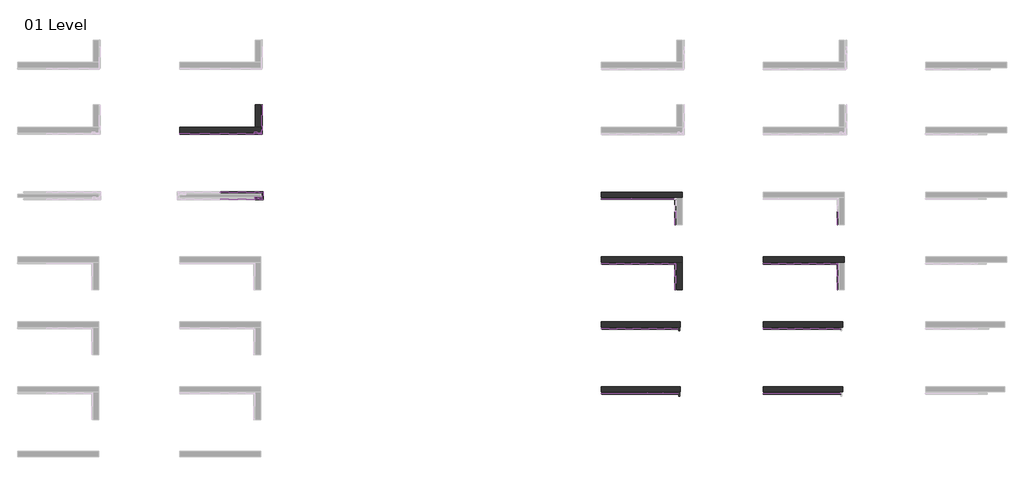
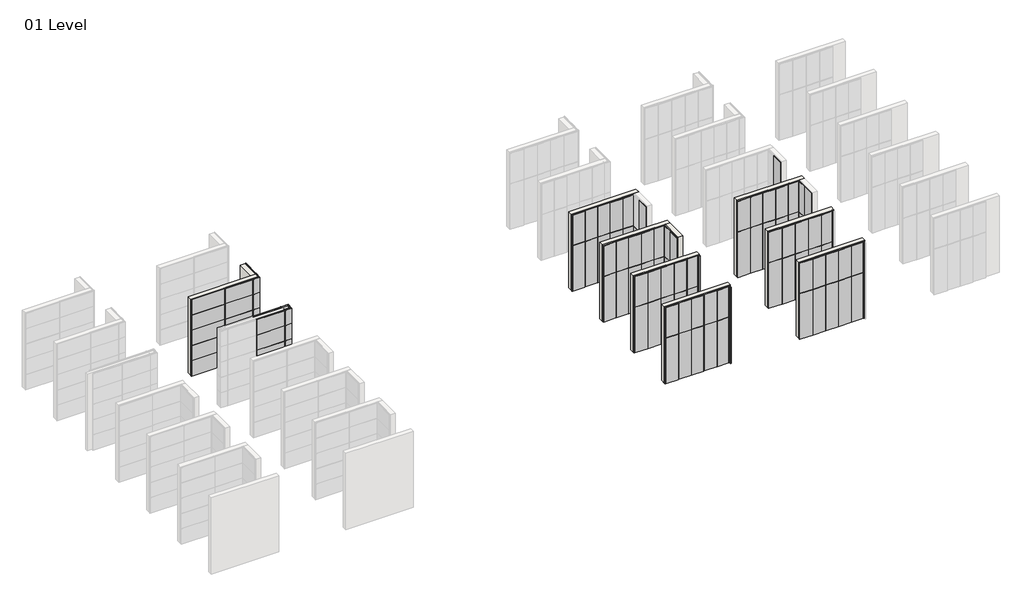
# One storey, part 5 of 9: 128 plates, 10 walls.
"""IFC4 building model written with IfcOpenShell, lengths in millimetres."""

from ifc_helpers import new_model, si_unit, origin, origin_with_axes, place, context, project, spatial, polyline, outline, extrude, faceted_brep, transform, mapped, element, save
from components import plate_62c4d9ae, plate_ce90e10d, plate_6c90bc91, plate_468f01a4, plate_5372a68f, plate_bb49d724, plate_23a4fca0, plate_3b680a05, plate_cab83f3e, plate_e52f3243, plate_4451879e, plate_48e415e9, plate_46ff2dc8, plate_45dd23fd, plate_37e1ff53, plate_fcb16cc0, plate_1c614da3, plate_1be4212a, plate_7177283f, plate_6dac5c35, plate_9cd253ac, plate_fa0548bc, plate_3204965b, plate_1d892687, plate_6f68b0d8, plate_72ce43b0, plate_73256dec, plate_cac39632, plate_bd979ab8, plate_3a42f666, plate_9ea4f8e3, plate_4783281a, plate_83c40625, plate_7937e4e1, plate_875d32aa, plate_8aff69ed, plate_c34a1dad, plate_911a777f, plate_6156d926, plate_2cf58c36, plate_576f8770, empty_system_panel_empty_985d2cdc, empty_system_panel_empty_90a12fe6, system_panel_128491da, system_panel_f6e690f5

model = new_model("IFC4")

# Units and contexts
model_context = context("Model", 3, world=origin())
ifc_project = project(units=[si_unit("LENGTHUNIT", "METRE", prefix="MILLI")], contexts=[model_context])

# Site, building, storey
site = spatial("IfcSite", under=ifc_project)
building = spatial("IfcBuilding", under=site)
storey = spatial("IfcBuildingStorey", under=building, Name="01 Level", Elevation=0.0)

# Plates
placement = place(None, origin())
plate_shape = plate_62c4d9ae(model_context)
element("IfcPlate", 1, ObjectType="Trimo_Qbiss Screen_Normal Panel-HORIZONTAL : HR - FB-F", at=placement, inside=storey, context=model_context, shape_type="MappedRepresentation", body=[
    mapped(plate_shape, transform((-7452.2237135, -3083.2713317, 0.0), x_axis=(-1.0, 0.0, 0.0), y_axis=(0.0, -1.0, 0.0), z_axis=(0.0, 0.0, 1.0))),
])
element("IfcPlate", 2, ObjectType="Trimo_Qbiss Screen_Normal Panel-HORIZONTAL : HR - FB-F", at=placement, inside=storey, context=model_context, shape_type="MappedRepresentation", body=[
    mapped(plate_shape, transform((-7452.2237135, -3083.2713317, 4800.0), x_axis=(-1.0, 0.0, 0.0), y_axis=(0.0, -1.0, 0.0), z_axis=(0.0, 0.0, 1.0))),
])
element("IfcPlate", 3, ObjectType="Trimo_Qbiss Screen_Normal Panel-HORIZONTAL : HR - FB-F", at=placement, inside=storey, context=model_context, shape_type="MappedRepresentation", body=[
    mapped(plate_shape, transform((-7452.2237135, -3083.2713317, 2400.0), x_axis=(-1.0, 0.0, 0.0), y_axis=(0.0, -1.0, 0.0), z_axis=(0.0, 0.0, 1.0))),
])
element("IfcPlate", 4, ObjectType="Trimo_Qbiss Screen_Normal Panel-HORIZONTAL : HR - FB-F", at=placement, inside=storey, context=model_context, shape_type="MappedRepresentation", body=[
    mapped(plate_shape, transform((-7452.2237135, -3083.2713317, 3600.0), x_axis=(-1.0, 0.0, 0.0), y_axis=(0.0, -1.0, 0.0), z_axis=(0.0, 0.0, 1.0))),
])
element("IfcPlate", 5, ObjectType="Trimo_Qbiss Screen_Normal Panel-HORIZONTAL : HR - FB-F", at=placement, inside=storey, context=model_context, shape_type="MappedRepresentation", body=[
    mapped(plate_shape, transform((-7452.2237135, -3083.2713317, 1200.0), x_axis=(-1.0, 0.0, 0.0), y_axis=(0.0, -1.0, 0.0), z_axis=(0.0, 0.0, 1.0))),
])
plate_2_shape = plate_ce90e10d(model_context)
element("IfcPlate", 6, ObjectType="Trimo_Qbiss Screen_Normal Panel-HORIZONTAL : HR - FB-F", at=placement, inside=storey, context=model_context, shape_type="MappedRepresentation", body=[
    mapped(plate_2_shape, transform((-5135.9737135, -7083.2713317, 2400.0), x_axis=(-1.0, 0.0, 0.0), y_axis=(0.0, -1.0, 0.0), z_axis=(0.0, 0.0, 1.0))),
])
element("IfcPlate", 7, ObjectType="Trimo_Qbiss Screen_Normal Panel-HORIZONTAL : HR - FB-F", at=placement, inside=storey, context=model_context, shape_type="MappedRepresentation", body=[
    mapped(plate_2_shape, transform((-5135.9737135, -7083.2713317, 3600.0), x_axis=(-1.0, 0.0, 0.0), y_axis=(0.0, -1.0, 0.0), z_axis=(0.0, 0.0, 1.0))),
])
element("IfcPlate", 8, ObjectType="Trimo_Qbiss Screen_Normal Panel-HORIZONTAL : HR - FB-F", at=placement, inside=storey, context=model_context, shape_type="MappedRepresentation", body=[
    mapped(plate_2_shape, transform((-5135.9737135, -7083.2713317, 4800.0), x_axis=(-1.0, 0.0, 0.0), y_axis=(0.0, -1.0, 0.0), z_axis=(0.0, 0.0, 1.0))),
])
element("IfcPlate", 9, ObjectType="Trimo_Qbiss Screen_Normal Panel-HORIZONTAL : HR - FB-F", at=placement, inside=storey, context=model_context, shape_type="MappedRepresentation", body=[
    mapped(plate_2_shape, transform((-5135.9737135, -6883.2713317, 0.0), x_axis=(1.0, 0.0, 0.0), y_axis=(0.0, 1.0, 0.0), z_axis=(0.0, 0.0, 1.0))),
])
element("IfcPlate", 10, ObjectType="Trimo_Qbiss Screen_Normal Panel-HORIZONTAL : HR - FB-F", at=placement, inside=storey, context=model_context, shape_type="MappedRepresentation", body=[
    mapped(plate_2_shape, transform((-5135.9737135, -6883.2713317, 1200.0), x_axis=(1.0, 0.0, 0.0), y_axis=(0.0, 1.0, 0.0), z_axis=(0.0, 0.0, 1.0))),
])
element("IfcPlate", 11, ObjectType="Trimo_Qbiss Screen_Normal Panel-HORIZONTAL : HR - FB-F", at=placement, inside=storey, context=model_context, shape_type="MappedRepresentation", body=[
    mapped(plate_2_shape, transform((-5135.9737135, -6883.2713317, 2400.0), x_axis=(1.0, 0.0, 0.0), y_axis=(0.0, 1.0, 0.0), z_axis=(0.0, 0.0, 1.0))),
])
element("IfcPlate", 12, ObjectType="Trimo_Qbiss Screen_Normal Panel-HORIZONTAL : HR - FB-F", at=placement, inside=storey, context=model_context, shape_type="MappedRepresentation", body=[
    mapped(plate_2_shape, transform((-5135.9737135, -6883.2713317, 3600.0), x_axis=(1.0, 0.0, 0.0), y_axis=(0.0, 1.0, 0.0), z_axis=(0.0, 0.0, 1.0))),
])
element("IfcPlate", 13, ObjectType="Trimo_Qbiss Screen_Normal Panel-HORIZONTAL : HR - FB-F", at=placement, inside=storey, context=model_context, shape_type="MappedRepresentation", body=[
    mapped(plate_2_shape, transform((-5135.9737135, -6883.2713317, 4800.0), x_axis=(1.0, 0.0, 0.0), y_axis=(0.0, 1.0, 0.0), z_axis=(0.0, 0.0, 1.0))),
])
plate_3_shape = plate_6c90bc91(model_context)
element("IfcPlate", 14, ObjectType="Trimo_Qbiss Screen_Normal Panel-HORIZONTAL : HR - FB-F", at=placement, inside=storey, context=model_context, shape_type="MappedRepresentation", body=[
    mapped(plate_3_shape, transform((-3702.2237135, -2027.0213317, 0.0), x_axis=(0.0, -1.0, 0.0), y_axis=(1.0, 0.0, 0.0), z_axis=(0.0, 0.0, 1.0))),
])
element("IfcPlate", 15, ObjectType="Trimo_Qbiss Screen_Normal Panel-HORIZONTAL : HR - FB-F", at=placement, inside=storey, context=model_context, shape_type="MappedRepresentation", body=[
    mapped(plate_3_shape, transform((-3702.2237135, -2027.0213317, 4800.0), x_axis=(0.0, -1.0, 0.0), y_axis=(1.0, 0.0, 0.0), z_axis=(0.0, 0.0, 1.0))),
])
element("IfcPlate", 16, ObjectType="Trimo_Qbiss Screen_Normal Panel-HORIZONTAL : HR - FB-F", at=placement, inside=storey, context=model_context, shape_type="MappedRepresentation", body=[
    mapped(plate_3_shape, transform((-3702.2237135, -2027.0213317, 2400.0), x_axis=(0.0, -1.0, 0.0), y_axis=(1.0, 0.0, 0.0), z_axis=(0.0, 0.0, 1.0))),
])
element("IfcPlate", 17, ObjectType="Trimo_Qbiss Screen_Normal Panel-HORIZONTAL : HR - FB-F", at=placement, inside=storey, context=model_context, shape_type="MappedRepresentation", body=[
    mapped(plate_3_shape, transform((-3702.2237135, -2027.0213317, 3600.0), x_axis=(0.0, -1.0, 0.0), y_axis=(1.0, 0.0, 0.0), z_axis=(0.0, 0.0, 1.0))),
])
element("IfcPlate", 18, ObjectType="Trimo_Qbiss Screen_Normal Panel-HORIZONTAL : HR - FB-F", at=placement, inside=storey, context=model_context, shape_type="MappedRepresentation", body=[
    mapped(plate_3_shape, transform((-3702.2237135, -2027.0213317, 1200.0), x_axis=(0.0, -1.0, 0.0), y_axis=(1.0, 0.0, 0.0), z_axis=(0.0, 0.0, 1.0))),
])
plate_4_shape = plate_468f01a4(model_context)
element("IfcPlate", 19, ObjectType="Trimo_Qbiss Screen_Normal Panel-HORIZONTAL : HR - FB-F", at=placement, inside=storey, context=model_context, shape_type="MappedRepresentation", body=[
    mapped(plate_4_shape, transform((-5158.4737135, -3083.2713317, 0.0), x_axis=(-1.0, 0.0, 0.0), y_axis=(0.0, -1.0, 0.0), z_axis=(0.0, 0.0, 1.0))),
])
element("IfcPlate", 20, ObjectType="Trimo_Qbiss Screen_Normal Panel-HORIZONTAL : HR - FB-F", at=placement, inside=storey, context=model_context, shape_type="MappedRepresentation", body=[
    mapped(plate_4_shape, transform((-5158.4737135, -3083.2713317, 1200.0), x_axis=(-1.0, 0.0, 0.0), y_axis=(0.0, -1.0, 0.0), z_axis=(0.0, 0.0, 1.0))),
])
element("IfcPlate", 21, ObjectType="Trimo_Qbiss Screen_Normal Panel-HORIZONTAL : HR - FB-F", at=placement, inside=storey, context=model_context, shape_type="MappedRepresentation", body=[
    mapped(plate_4_shape, transform((-5158.4737135, -3083.2713317, 2400.0), x_axis=(-1.0, 0.0, 0.0), y_axis=(0.0, -1.0, 0.0), z_axis=(0.0, 0.0, 1.0))),
])
element("IfcPlate", 22, ObjectType="Trimo_Qbiss Screen_Normal Panel-HORIZONTAL : HR - FB-F", at=placement, inside=storey, context=model_context, shape_type="MappedRepresentation", body=[
    mapped(plate_4_shape, transform((-5158.4737135, -3083.2713317, 3600.0), x_axis=(-1.0, 0.0, 0.0), y_axis=(0.0, -1.0, 0.0), z_axis=(0.0, 0.0, 1.0))),
])
element("IfcPlate", 23, ObjectType="Trimo_Qbiss Screen_Normal Panel-HORIZONTAL : HR - FB-F", at=placement, inside=storey, context=model_context, shape_type="MappedRepresentation", body=[
    mapped(plate_4_shape, transform((-5158.4737135, -3083.2713317, 4800.0), x_axis=(-1.0, 0.0, 0.0), y_axis=(0.0, -1.0, 0.0), z_axis=(0.0, 0.0, 1.0))),
])
plate_5_shape = plate_5372a68f(model_context)
element("IfcPlate", 24, ObjectType="Trimo_Qbiss Screen_U Corner Panel-HORIZONTAL : HR - FB-F", at=placement, inside=storey, context=model_context, shape_type="MappedRepresentation", body=[
    mapped(plate_5_shape, transform((-3885.9737135, -6883.2713317, 0.0), x_axis=(1.0, 0.0, 0.0), y_axis=(0.0, 1.0, 0.0), z_axis=(0.0, 0.0, 1.0))),
])
element("IfcPlate", 25, ObjectType="Trimo_Qbiss Screen_U Corner Panel-HORIZONTAL : HR - FB-F", at=placement, inside=storey, context=model_context, shape_type="MappedRepresentation", body=[
    mapped(plate_5_shape, transform((-3885.9737135, -6883.2713317, 1200.0), x_axis=(1.0, 0.0, 0.0), y_axis=(0.0, 1.0, 0.0), z_axis=(0.0, 0.0, 1.0))),
])
element("IfcPlate", 26, ObjectType="Trimo_Qbiss Screen_U Corner Panel-HORIZONTAL : HR - FB-F", at=placement, inside=storey, context=model_context, shape_type="MappedRepresentation", body=[
    mapped(plate_5_shape, transform((-3885.9737135, -6883.2713317, 2400.0), x_axis=(1.0, 0.0, 0.0), y_axis=(0.0, 1.0, 0.0), z_axis=(0.0, 0.0, 1.0))),
])
element("IfcPlate", 27, ObjectType="Trimo_Qbiss Screen_U Corner Panel-HORIZONTAL : HR - FB-F", at=placement, inside=storey, context=model_context, shape_type="MappedRepresentation", body=[
    mapped(plate_5_shape, transform((-3885.9737135, -6883.2713317, 3600.0), x_axis=(1.0, 0.0, 0.0), y_axis=(0.0, 1.0, 0.0), z_axis=(0.0, 0.0, 1.0))),
])
element("IfcPlate", 28, ObjectType="Trimo_Qbiss Screen_U Corner Panel-HORIZONTAL : HR - FB-F", at=placement, inside=storey, context=model_context, shape_type="MappedRepresentation", body=[
    mapped(plate_5_shape, transform((-3885.9737135, -6883.2713317, 4800.0), x_axis=(1.0, 0.0, 0.0), y_axis=(0.0, 1.0, 0.0), z_axis=(0.0, 0.0, 1.0))),
])
plate_6_shape = plate_bb49d724(model_context)
element("IfcPlate", 29, ObjectType="Trimo_Qbiss Screen_L Corner Panel-HORIZONTAL : HR - FB-F", at=placement, inside=storey, context=model_context, shape_type="MappedRepresentation", body=[
    mapped(plate_6_shape, transform((-3702.2237135, -2877.0213317, 0.0), x_axis=(0.0, -1.0, 0.0), y_axis=(1.0, 0.0, 0.0), z_axis=(0.0, 0.0, 1.0))),
])
element("IfcPlate", 30, ObjectType="Trimo_Qbiss Screen_L Corner Panel-HORIZONTAL : HR - FB-F", at=placement, inside=storey, context=model_context, shape_type="MappedRepresentation", body=[
    mapped(plate_6_shape, transform((-3702.2237135, -2877.0213317, 1200.0), x_axis=(0.0, -1.0, 0.0), y_axis=(1.0, 0.0, 0.0), z_axis=(0.0, 0.0, 1.0))),
])
element("IfcPlate", 31, ObjectType="Trimo_Qbiss Screen_L Corner Panel-HORIZONTAL : HR - FB-F", at=placement, inside=storey, context=model_context, shape_type="MappedRepresentation", body=[
    mapped(plate_6_shape, transform((-3702.2237135, -2877.0213317, 2400.0), x_axis=(0.0, -1.0, 0.0), y_axis=(1.0, 0.0, 0.0), z_axis=(0.0, 0.0, 1.0))),
])
element("IfcPlate", 32, ObjectType="Trimo_Qbiss Screen_L Corner Panel-HORIZONTAL : HR - FB-F", at=placement, inside=storey, context=model_context, shape_type="MappedRepresentation", body=[
    mapped(plate_6_shape, transform((-3702.2237135, -2877.0213317, 3600.0), x_axis=(0.0, -1.0, 0.0), y_axis=(1.0, 0.0, 0.0), z_axis=(0.0, 0.0, 1.0))),
])
element("IfcPlate", 33, ObjectType="Trimo_Qbiss Screen_L Corner Panel-HORIZONTAL : HR - FB-F", at=placement, inside=storey, context=model_context, shape_type="MappedRepresentation", body=[
    mapped(plate_6_shape, transform((-3702.2237135, -2877.0213317, 4800.0), x_axis=(0.0, -1.0, 0.0), y_axis=(1.0, 0.0, 0.0), z_axis=(0.0, 0.0, 1.0))),
])
plate_7_shape = plate_23a4fca0(model_context)
element("IfcPlate", 34, ObjectType="Trimo_Qbiss Screen_Normal Panel-VERTICAL : HR - B", at=placement, inside=storey, context=model_context, shape_type="MappedRepresentation", body=[
    mapped(plate_7_shape, transform((21500.7762865, -7083.2713317, 0.0), x_axis=(-1.0, 0.0, 0.0), y_axis=(0.0, -1.0, 0.0), z_axis=(0.0, 0.0, 1.0))),
])
plate_8_shape = plate_3b680a05(model_context)
element("IfcPlate", 35, ObjectType="Trimo_Qbiss Screen_Normal Panel-VERTICAL : HR - B", at=placement, inside=storey, context=model_context, shape_type="MappedRepresentation", body=[
    mapped(plate_8_shape, transform((19632.7762865, -7083.2713317, 0.0), x_axis=(-1.0, 0.0, 0.0), y_axis=(0.0, -1.0, 0.0), z_axis=(0.0, 0.0, 1.0))),
])
element("IfcPlate", 36, ObjectType="Trimo_Qbiss Screen_Normal Panel-VERTICAL : HR - B", at=placement, inside=storey, context=model_context, shape_type="MappedRepresentation", body=[
    mapped(plate_8_shape, transform((19632.7762865, -11083.2713317, 0.0), x_axis=(-1.0, 0.0, 0.0), y_axis=(0.0, -1.0, 0.0), z_axis=(0.0, 0.0, 1.0))),
])
element("IfcPlate", 37, ObjectType="Trimo_Qbiss Screen_Normal Panel-VERTICAL : HR - B", at=placement, inside=storey, context=model_context, shape_type="MappedRepresentation", body=[
    mapped(plate_8_shape, transform((17764.7762865, -7083.2713317, 0.0), x_axis=(-1.0, 0.0, 0.0), y_axis=(0.0, -1.0, 0.0), z_axis=(0.0, 0.0, 1.0))),
])
element("IfcPlate", 38, ObjectType="Trimo_Qbiss Screen_Normal Panel-VERTICAL : HR - B", at=placement, inside=storey, context=model_context, shape_type="MappedRepresentation", body=[
    mapped(plate_8_shape, transform((18698.7762865, -7083.2713317, 0.0), x_axis=(-1.0, 0.0, 0.0), y_axis=(0.0, -1.0, 0.0), z_axis=(0.0, 0.0, 1.0))),
])
element("IfcPlate", 39, ObjectType="Trimo_Qbiss Screen_Normal Panel-VERTICAL : HR - B", at=placement, inside=storey, context=model_context, shape_type="MappedRepresentation", body=[
    mapped(plate_8_shape, transform((20566.7762865, -7083.2713317, 0.0), x_axis=(-1.0, 0.0, 0.0), y_axis=(0.0, -1.0, 0.0), z_axis=(0.0, 0.0, 1.0))),
])
element("IfcPlate", 40, ObjectType="Trimo_Qbiss Screen_Normal Panel-VERTICAL : HR - B", at=placement, inside=storey, context=model_context, shape_type="MappedRepresentation", body=[
    mapped(plate_8_shape, transform((17764.7762865, -11083.2713317, 0.0), x_axis=(-1.0, 0.0, 0.0), y_axis=(0.0, -1.0, 0.0), z_axis=(0.0, 0.0, 1.0))),
])
element("IfcPlate", 41, ObjectType="Trimo_Qbiss Screen_Normal Panel-VERTICAL : HR - B", at=placement, inside=storey, context=model_context, shape_type="MappedRepresentation", body=[
    mapped(plate_8_shape, transform((18698.7762865, -11083.2713317, 0.0), x_axis=(-1.0, 0.0, 0.0), y_axis=(0.0, -1.0, 0.0), z_axis=(0.0, 0.0, 1.0))),
])
element("IfcPlate", 42, ObjectType="Trimo_Qbiss Screen_Normal Panel-VERTICAL : HR - B", at=placement, inside=storey, context=model_context, shape_type="MappedRepresentation", body=[
    mapped(plate_8_shape, transform((20566.7762865, -11083.2713317, 0.0), x_axis=(-1.0, 0.0, 0.0), y_axis=(0.0, -1.0, 0.0), z_axis=(0.0, 0.0, 1.0))),
])
plate_9_shape = plate_cab83f3e(model_context)
element("IfcPlate", 43, ObjectType="Trimo_Qbiss Screen_Normal Panel-VERTICAL : HR - B", at=placement, inside=storey, context=model_context, shape_type="MappedRepresentation", body=[
    mapped(plate_9_shape, transform((21500.7762865, -7083.2713317, 3600.0), x_axis=(-1.0, 0.0, 0.0), y_axis=(0.0, -1.0, 0.0), z_axis=(0.0, 0.0, 1.0))),
])
plate_10_shape = plate_e52f3243(model_context)
element("IfcPlate", 44, ObjectType="Trimo_Qbiss Screen_Normal Panel-VERTICAL : HR - B", at=placement, inside=storey, context=model_context, shape_type="MappedRepresentation", body=[
    mapped(plate_10_shape, transform((19632.7762865, -7083.2713317, 3600.0), x_axis=(-1.0, 0.0, 0.0), y_axis=(0.0, -1.0, 0.0), z_axis=(0.0, 0.0, 1.0))),
])
element("IfcPlate", 45, ObjectType="Trimo_Qbiss Screen_Normal Panel-VERTICAL : HR - B", at=placement, inside=storey, context=model_context, shape_type="MappedRepresentation", body=[
    mapped(plate_10_shape, transform((19632.7762865, -11083.2713317, 3600.0), x_axis=(-1.0, 0.0, 0.0), y_axis=(0.0, -1.0, 0.0), z_axis=(0.0, 0.0, 1.0))),
])
element("IfcPlate", 46, ObjectType="Trimo_Qbiss Screen_Normal Panel-VERTICAL : HR - B", at=placement, inside=storey, context=model_context, shape_type="MappedRepresentation", body=[
    mapped(plate_10_shape, transform((17764.7762865, -7083.2713317, 3600.0), x_axis=(-1.0, 0.0, 0.0), y_axis=(0.0, -1.0, 0.0), z_axis=(0.0, 0.0, 1.0))),
])
element("IfcPlate", 47, ObjectType="Trimo_Qbiss Screen_Normal Panel-VERTICAL : HR - B", at=placement, inside=storey, context=model_context, shape_type="MappedRepresentation", body=[
    mapped(plate_10_shape, transform((18698.7762865, -7083.2713317, 3600.0), x_axis=(-1.0, 0.0, 0.0), y_axis=(0.0, -1.0, 0.0), z_axis=(0.0, 0.0, 1.0))),
])
element("IfcPlate", 48, ObjectType="Trimo_Qbiss Screen_Normal Panel-VERTICAL : HR - B", at=placement, inside=storey, context=model_context, shape_type="MappedRepresentation", body=[
    mapped(plate_10_shape, transform((20566.7762865, -7083.2713317, 3600.0), x_axis=(-1.0, 0.0, 0.0), y_axis=(0.0, -1.0, 0.0), z_axis=(0.0, 0.0, 1.0))),
])
element("IfcPlate", 49, ObjectType="Trimo_Qbiss Screen_Normal Panel-VERTICAL : HR - B", at=placement, inside=storey, context=model_context, shape_type="MappedRepresentation", body=[
    mapped(plate_10_shape, transform((17764.7762865, -11083.2713317, 3600.0), x_axis=(-1.0, 0.0, 0.0), y_axis=(0.0, -1.0, 0.0), z_axis=(0.0, 0.0, 1.0))),
])
element("IfcPlate", 50, ObjectType="Trimo_Qbiss Screen_Normal Panel-VERTICAL : HR - B", at=placement, inside=storey, context=model_context, shape_type="MappedRepresentation", body=[
    mapped(plate_10_shape, transform((18698.7762865, -11083.2713317, 3600.0), x_axis=(-1.0, 0.0, 0.0), y_axis=(0.0, -1.0, 0.0), z_axis=(0.0, 0.0, 1.0))),
])
element("IfcPlate", 51, ObjectType="Trimo_Qbiss Screen_Normal Panel-VERTICAL : HR - B", at=placement, inside=storey, context=model_context, shape_type="MappedRepresentation", body=[
    mapped(plate_10_shape, transform((20566.7762865, -11083.2713317, 3600.0), x_axis=(-1.0, 0.0, 0.0), y_axis=(0.0, -1.0, 0.0), z_axis=(0.0, 0.0, 1.0))),
])
plate_11_shape = plate_4451879e(model_context)
element("IfcPlate", 52, ObjectType="Trimo_Qbiss Screen_Normal Panel-VERTICAL : HR - B", at=placement, inside=storey, context=model_context, shape_type="MappedRepresentation", body=[
    mapped(plate_11_shape, transform((21500.7762865, -11083.2713317, 0.0), x_axis=(-1.0, 0.0, 0.0), y_axis=(0.0, -1.0, 0.0), z_axis=(0.0, 0.0, 1.0))),
])
plate_12_shape = plate_48e415e9(model_context)
element("IfcPlate", 53, ObjectType="Trimo_Qbiss Screen_Normal Panel-VERTICAL : HR - B", at=placement, inside=storey, context=model_context, shape_type="MappedRepresentation", body=[
    mapped(plate_12_shape, transform((21500.7762865, -11083.2713317, 3600.0), x_axis=(-1.0, 0.0, 0.0), y_axis=(0.0, -1.0, 0.0), z_axis=(0.0, 0.0, 1.0))),
])
plate_13_shape = plate_46ff2dc8(model_context)
element("IfcPlate", 54, ObjectType="Trimo_Qbiss Screen_Normal Panel-VERTICAL : HR - B", at=placement, inside=storey, context=model_context, shape_type="MappedRepresentation", body=[
    mapped(plate_13_shape, transform((21636.7762865, -15083.2713317, 0.0), x_axis=(-1.0, 0.0, 0.0), y_axis=(0.0, -1.0, 0.0), z_axis=(0.0, 0.0, 1.0))),
])
plate_14_shape = plate_45dd23fd(model_context)
element("IfcPlate", 55, ObjectType="Trimo_Qbiss Screen_Normal Panel-VERTICAL : HR - B", at=placement, inside=storey, context=model_context, shape_type="MappedRepresentation", body=[
    mapped(plate_14_shape, transform((19740.2762865, -15083.2713317, 0.0), x_axis=(-1.0, 0.0, 0.0), y_axis=(0.0, -1.0, 0.0), z_axis=(0.0, 0.0, 1.0))),
])
element("IfcPlate", 56, ObjectType="Trimo_Qbiss Screen_Normal Panel-VERTICAL : HR - B", at=placement, inside=storey, context=model_context, shape_type="MappedRepresentation", body=[
    mapped(plate_14_shape, transform((17786.2762865, -15083.2713317, 0.0), x_axis=(-1.0, 0.0, 0.0), y_axis=(0.0, -1.0, 0.0), z_axis=(0.0, 0.0, 1.0))),
])
element("IfcPlate", 57, ObjectType="Trimo_Qbiss Screen_Normal Panel-VERTICAL : HR - B", at=placement, inside=storey, context=model_context, shape_type="MappedRepresentation", body=[
    mapped(plate_14_shape, transform((18763.2762865, -15083.2713317, 0.0), x_axis=(-1.0, 0.0, 0.0), y_axis=(0.0, -1.0, 0.0), z_axis=(0.0, 0.0, 1.0))),
])
element("IfcPlate", 58, ObjectType="Trimo_Qbiss Screen_Normal Panel-VERTICAL : HR - B", at=placement, inside=storey, context=model_context, shape_type="MappedRepresentation", body=[
    mapped(plate_14_shape, transform((20717.2762865, -15083.2713317, 0.0), x_axis=(-1.0, 0.0, 0.0), y_axis=(0.0, -1.0, 0.0), z_axis=(0.0, 0.0, 1.0))),
])
plate_15_shape = plate_37e1ff53(model_context)
element("IfcPlate", 59, ObjectType="Trimo_Qbiss Screen_Normal Panel-VERTICAL : HR - B", at=placement, inside=storey, context=model_context, shape_type="MappedRepresentation", body=[
    mapped(plate_15_shape, transform((21636.7762865, -15083.2713317, 3600.0), x_axis=(-1.0, 0.0, 0.0), y_axis=(0.0, -1.0, 0.0), z_axis=(0.0, 0.0, 1.0))),
])
plate_16_shape = plate_fcb16cc0(model_context)
element("IfcPlate", 60, ObjectType="Trimo_Qbiss Screen_Normal Panel-VERTICAL : HR - B", at=placement, inside=storey, context=model_context, shape_type="MappedRepresentation", body=[
    mapped(plate_16_shape, transform((19740.2762865, -15083.2713317, 3600.0), x_axis=(-1.0, 0.0, 0.0), y_axis=(0.0, -1.0, 0.0), z_axis=(0.0, 0.0, 1.0))),
])
element("IfcPlate", 61, ObjectType="Trimo_Qbiss Screen_Normal Panel-VERTICAL : HR - B", at=placement, inside=storey, context=model_context, shape_type="MappedRepresentation", body=[
    mapped(plate_16_shape, transform((17786.2762865, -15083.2713317, 3600.0), x_axis=(-1.0, 0.0, 0.0), y_axis=(0.0, -1.0, 0.0), z_axis=(0.0, 0.0, 1.0))),
])
element("IfcPlate", 62, ObjectType="Trimo_Qbiss Screen_Normal Panel-VERTICAL : HR - B", at=placement, inside=storey, context=model_context, shape_type="MappedRepresentation", body=[
    mapped(plate_16_shape, transform((18763.2762865, -15083.2713317, 3600.0), x_axis=(-1.0, 0.0, 0.0), y_axis=(0.0, -1.0, 0.0), z_axis=(0.0, 0.0, 1.0))),
])
element("IfcPlate", 63, ObjectType="Trimo_Qbiss Screen_Normal Panel-VERTICAL : HR - B", at=placement, inside=storey, context=model_context, shape_type="MappedRepresentation", body=[
    mapped(plate_16_shape, transform((20717.2762865, -15083.2713317, 3600.0), x_axis=(-1.0, 0.0, 0.0), y_axis=(0.0, -1.0, 0.0), z_axis=(0.0, 0.0, 1.0))),
])
plate_17_shape = plate_1c614da3(model_context)
element("IfcPlate", 64, ObjectType="Trimo_Qbiss Screen_Normal Panel-VERTICAL : HR - B", at=placement, inside=storey, context=model_context, shape_type="MappedRepresentation", body=[
    mapped(plate_17_shape, transform((21590.7762865, -19083.2713317, 0.0), x_axis=(-1.0, 0.0, 0.0), y_axis=(0.0, -1.0, 0.0), z_axis=(0.0, 0.0, 1.0))),
])
plate_18_shape = plate_1be4212a(model_context)
element("IfcPlate", 65, ObjectType="Trimo_Qbiss Screen_Normal Panel-VERTICAL : HR - B", at=placement, inside=storey, context=model_context, shape_type="MappedRepresentation", body=[
    mapped(plate_18_shape, transform((19682.7762865, -19083.2713317, 0.0), x_axis=(-1.0, 0.0, 0.0), y_axis=(0.0, -1.0, 0.0), z_axis=(0.0, 0.0, 1.0))),
])
element("IfcPlate", 66, ObjectType="Trimo_Qbiss Screen_Normal Panel-VERTICAL : HR - B", at=placement, inside=storey, context=model_context, shape_type="MappedRepresentation", body=[
    mapped(plate_18_shape, transform((17774.7762865, -19083.2713317, 0.0), x_axis=(-1.0, 0.0, 0.0), y_axis=(0.0, -1.0, 0.0), z_axis=(0.0, 0.0, 1.0))),
])
element("IfcPlate", 67, ObjectType="Trimo_Qbiss Screen_Normal Panel-VERTICAL : HR - B", at=placement, inside=storey, context=model_context, shape_type="MappedRepresentation", body=[
    mapped(plate_18_shape, transform((18728.7762865, -19083.2713317, 0.0), x_axis=(-1.0, 0.0, 0.0), y_axis=(0.0, -1.0, 0.0), z_axis=(0.0, 0.0, 1.0))),
])
element("IfcPlate", 68, ObjectType="Trimo_Qbiss Screen_Normal Panel-VERTICAL : HR - B", at=placement, inside=storey, context=model_context, shape_type="MappedRepresentation", body=[
    mapped(plate_18_shape, transform((20636.7762865, -19083.2713317, 0.0), x_axis=(-1.0, 0.0, 0.0), y_axis=(0.0, -1.0, 0.0), z_axis=(0.0, 0.0, 1.0))),
])
plate_19_shape = plate_7177283f(model_context)
element("IfcPlate", 69, ObjectType="Trimo_Qbiss Screen_Normal Panel-VERTICAL : HR - B", at=placement, inside=storey, context=model_context, shape_type="MappedRepresentation", body=[
    mapped(plate_19_shape, transform((21590.7762865, -19083.2713317, 3600.0), x_axis=(-1.0, 0.0, 0.0), y_axis=(0.0, -1.0, 0.0), z_axis=(0.0, 0.0, 1.0))),
])
plate_20_shape = plate_6dac5c35(model_context)
element("IfcPlate", 70, ObjectType="Trimo_Qbiss Screen_Normal Panel-VERTICAL : HR - B", at=placement, inside=storey, context=model_context, shape_type="MappedRepresentation", body=[
    mapped(plate_20_shape, transform((19682.7762865, -19083.2713317, 3600.0), x_axis=(-1.0, 0.0, 0.0), y_axis=(0.0, -1.0, 0.0), z_axis=(0.0, 0.0, 1.0))),
])
element("IfcPlate", 71, ObjectType="Trimo_Qbiss Screen_Normal Panel-VERTICAL : HR - B", at=placement, inside=storey, context=model_context, shape_type="MappedRepresentation", body=[
    mapped(plate_20_shape, transform((17774.7762865, -19083.2713317, 3600.0), x_axis=(-1.0, 0.0, 0.0), y_axis=(0.0, -1.0, 0.0), z_axis=(0.0, 0.0, 1.0))),
])
element("IfcPlate", 72, ObjectType="Trimo_Qbiss Screen_Normal Panel-VERTICAL : HR - B", at=placement, inside=storey, context=model_context, shape_type="MappedRepresentation", body=[
    mapped(plate_20_shape, transform((18728.7762865, -19083.2713317, 3600.0), x_axis=(-1.0, 0.0, 0.0), y_axis=(0.0, -1.0, 0.0), z_axis=(0.0, 0.0, 1.0))),
])
element("IfcPlate", 73, ObjectType="Trimo_Qbiss Screen_Normal Panel-VERTICAL : HR - B", at=placement, inside=storey, context=model_context, shape_type="MappedRepresentation", body=[
    mapped(plate_20_shape, transform((20636.7762865, -19083.2713317, 3600.0), x_axis=(-1.0, 0.0, 0.0), y_axis=(0.0, -1.0, 0.0), z_axis=(0.0, 0.0, 1.0))),
])
plate_21_shape = plate_9cd253ac(model_context)
element("IfcPlate", 74, ObjectType="Trimo_Qbiss Screen_Normal Panel-VERTICAL : HR - B", at=placement, inside=storey, context=model_context, shape_type="MappedRepresentation", body=[
    mapped(plate_21_shape, transform((21967.7762865, -8358.2713317, 0.0), x_axis=(0.0, 1.0, 0.0), y_axis=(-1.0, 0.0, 0.0), z_axis=(0.0, 0.0, 1.0))),
])
element("IfcPlate", 75, ObjectType="Trimo_Qbiss Screen_Normal Panel-VERTICAL : HR - B", at=placement, inside=storey, context=model_context, shape_type="MappedRepresentation", body=[
    mapped(plate_21_shape, transform((21967.7762865, -12358.2713317, 0.0), x_axis=(0.0, 1.0, 0.0), y_axis=(-1.0, 0.0, 0.0), z_axis=(0.0, 0.0, 1.0))),
])
plate_22_shape = plate_fa0548bc(model_context)
element("IfcPlate", 76, ObjectType="Trimo_Qbiss Screen_Normal Panel-VERTICAL : HR - B", at=placement, inside=storey, context=model_context, shape_type="MappedRepresentation", body=[
    mapped(plate_22_shape, transform((21967.7762865, -8358.2713317, 3600.0), x_axis=(0.0, 1.0, 0.0), y_axis=(-1.0, 0.0, 0.0), z_axis=(0.0, 0.0, 1.0))),
])
element("IfcPlate", 77, ObjectType="Trimo_Qbiss Screen_Normal Panel-VERTICAL : HR - B", at=placement, inside=storey, context=model_context, shape_type="MappedRepresentation", body=[
    mapped(plate_22_shape, transform((21967.7762865, -12358.2713317, 3600.0), x_axis=(0.0, 1.0, 0.0), y_axis=(-1.0, 0.0, 0.0), z_axis=(0.0, 0.0, 1.0))),
])
plate_23_shape = plate_3204965b(model_context)
element("IfcPlate", 78, ObjectType="Trimo_Qbiss Screen_Normal Panel-VERTICAL : HR - B", at=placement, inside=storey, context=model_context, shape_type="MappedRepresentation", body=[
    mapped(plate_23_shape, transform((21967.7762865, -7508.2713317, 0.0), x_axis=(0.0, 1.0, 0.0), y_axis=(-1.0, 0.0, 0.0), z_axis=(0.0, 0.0, 1.0))),
])
plate_24_shape = plate_1d892687(model_context)
element("IfcPlate", 79, ObjectType="Trimo_Qbiss Screen_Normal Panel-VERTICAL : HR - B", at=placement, inside=storey, context=model_context, shape_type="MappedRepresentation", body=[
    mapped(plate_24_shape, transform((21967.7762865, -11508.2713317, 0.0), x_axis=(0.0, 1.0, 0.0), y_axis=(-1.0, 0.0, 0.0), z_axis=(0.0, 0.0, 1.0))),
])
plate_25_shape = plate_6f68b0d8(model_context)
element("IfcPlate", 80, ObjectType="Trimo_Qbiss Screen_Normal Panel-VERTICAL : HR - B", at=placement, inside=storey, context=model_context, shape_type="MappedRepresentation", body=[
    mapped(plate_25_shape, transform((21967.7762865, -11508.2713317, 3600.0), x_axis=(0.0, 1.0, 0.0), y_axis=(-1.0, 0.0, 0.0), z_axis=(0.0, 0.0, 1.0))),
])
plate_26_shape = plate_72ce43b0(model_context)
element("IfcPlate", 81, ObjectType="Trimo_Qbiss Screen_Normal Panel-VERTICAL : HR - FB", at=placement, inside=storey, context=model_context, shape_type="MappedRepresentation", body=[
    mapped(plate_26_shape, transform((29632.7762865, -11083.2713317, 0.0), x_axis=(-1.0, 0.0, 0.0), y_axis=(0.0, -1.0, 0.0), z_axis=(0.0, 0.0, 1.0))),
])
element("IfcPlate", 82, ObjectType="Trimo_Qbiss Screen_Normal Panel-VERTICAL : HR - FB", at=placement, inside=storey, context=model_context, shape_type="MappedRepresentation", body=[
    mapped(plate_26_shape, transform((27764.7762865, -11083.2713317, 0.0), x_axis=(-1.0, 0.0, 0.0), y_axis=(0.0, -1.0, 0.0), z_axis=(0.0, 0.0, 1.0))),
])
element("IfcPlate", 83, ObjectType="Trimo_Qbiss Screen_Normal Panel-VERTICAL : HR - FB", at=placement, inside=storey, context=model_context, shape_type="MappedRepresentation", body=[
    mapped(plate_26_shape, transform((28698.7762865, -11083.2713317, 0.0), x_axis=(-1.0, 0.0, 0.0), y_axis=(0.0, -1.0, 0.0), z_axis=(0.0, 0.0, 1.0))),
])
element("IfcPlate", 84, ObjectType="Trimo_Qbiss Screen_Normal Panel-VERTICAL : HR - FB", at=placement, inside=storey, context=model_context, shape_type="MappedRepresentation", body=[
    mapped(plate_26_shape, transform((30566.7762865, -11083.2713317, 0.0), x_axis=(-1.0, 0.0, 0.0), y_axis=(0.0, -1.0, 0.0), z_axis=(0.0, 0.0, 1.0))),
])
plate_27_shape = plate_73256dec(model_context)
element("IfcPlate", 85, ObjectType="Trimo_Qbiss Screen_Normal Panel-VERTICAL : HR - FB", at=placement, inside=storey, context=model_context, shape_type="MappedRepresentation", body=[
    mapped(plate_27_shape, transform((29632.7762865, -11083.2713317, 3600.0), x_axis=(-1.0, 0.0, 0.0), y_axis=(0.0, -1.0, 0.0), z_axis=(0.0, 0.0, 1.0))),
])
element("IfcPlate", 86, ObjectType="Trimo_Qbiss Screen_Normal Panel-VERTICAL : HR - FB", at=placement, inside=storey, context=model_context, shape_type="MappedRepresentation", body=[
    mapped(plate_27_shape, transform((27764.7762865, -11083.2713317, 3600.0), x_axis=(-1.0, 0.0, 0.0), y_axis=(0.0, -1.0, 0.0), z_axis=(0.0, 0.0, 1.0))),
])
element("IfcPlate", 87, ObjectType="Trimo_Qbiss Screen_Normal Panel-VERTICAL : HR - FB", at=placement, inside=storey, context=model_context, shape_type="MappedRepresentation", body=[
    mapped(plate_27_shape, transform((28698.7762865, -11083.2713317, 3600.0), x_axis=(-1.0, 0.0, 0.0), y_axis=(0.0, -1.0, 0.0), z_axis=(0.0, 0.0, 1.0))),
])
element("IfcPlate", 88, ObjectType="Trimo_Qbiss Screen_Normal Panel-VERTICAL : HR - FB", at=placement, inside=storey, context=model_context, shape_type="MappedRepresentation", body=[
    mapped(plate_27_shape, transform((30566.7762865, -11083.2713317, 3600.0), x_axis=(-1.0, 0.0, 0.0), y_axis=(0.0, -1.0, 0.0), z_axis=(0.0, 0.0, 1.0))),
])
plate_28_shape = plate_cac39632(model_context)
element("IfcPlate", 89, ObjectType="Trimo_Qbiss Screen_Normal Panel-VERTICAL : HR - FB", at=placement, inside=storey, context=model_context, shape_type="MappedRepresentation", body=[
    mapped(plate_28_shape, transform((31500.7762865, -11083.2713317, 0.0), x_axis=(-1.0, 0.0, 0.0), y_axis=(0.0, -1.0, 0.0), z_axis=(0.0, 0.0, 1.0))),
])
plate_29_shape = plate_bd979ab8(model_context)
element("IfcPlate", 90, ObjectType="Trimo_Qbiss Screen_Normal Panel-VERTICAL : HR - FB", at=placement, inside=storey, context=model_context, shape_type="MappedRepresentation", body=[
    mapped(plate_29_shape, transform((31500.7762865, -11083.2713317, 3600.0), x_axis=(-1.0, 0.0, 0.0), y_axis=(0.0, -1.0, 0.0), z_axis=(0.0, 0.0, 1.0))),
])
plate_30_shape = plate_3a42f666(model_context)
element("IfcPlate", 91, ObjectType="Trimo_Qbiss Screen_Normal Panel-VERTICAL : HR - FB", at=placement, inside=storey, context=model_context, shape_type="MappedRepresentation", body=[
    mapped(plate_30_shape, transform((31636.7762865, -15083.2713317, 0.0), x_axis=(-1.0, 0.0, 0.0), y_axis=(0.0, -1.0, 0.0), z_axis=(0.0, 0.0, 1.0))),
])
plate_31_shape = plate_9ea4f8e3(model_context)
element("IfcPlate", 92, ObjectType="Trimo_Qbiss Screen_Normal Panel-VERTICAL : HR - FB", at=placement, inside=storey, context=model_context, shape_type="MappedRepresentation", body=[
    mapped(plate_31_shape, transform((29740.2762865, -15083.2713317, 0.0), x_axis=(-1.0, 0.0, 0.0), y_axis=(0.0, -1.0, 0.0), z_axis=(0.0, 0.0, 1.0))),
])
element("IfcPlate", 93, ObjectType="Trimo_Qbiss Screen_Normal Panel-VERTICAL : HR - FB", at=placement, inside=storey, context=model_context, shape_type="MappedRepresentation", body=[
    mapped(plate_31_shape, transform((27786.2762865, -15083.2713317, 0.0), x_axis=(-1.0, 0.0, 0.0), y_axis=(0.0, -1.0, 0.0), z_axis=(0.0, 0.0, 1.0))),
])
element("IfcPlate", 94, ObjectType="Trimo_Qbiss Screen_Normal Panel-VERTICAL : HR - FB", at=placement, inside=storey, context=model_context, shape_type="MappedRepresentation", body=[
    mapped(plate_31_shape, transform((28763.2762865, -15083.2713317, 0.0), x_axis=(-1.0, 0.0, 0.0), y_axis=(0.0, -1.0, 0.0), z_axis=(0.0, 0.0, 1.0))),
])
element("IfcPlate", 95, ObjectType="Trimo_Qbiss Screen_Normal Panel-VERTICAL : HR - FB", at=placement, inside=storey, context=model_context, shape_type="MappedRepresentation", body=[
    mapped(plate_31_shape, transform((30717.2762865, -15083.2713317, 0.0), x_axis=(-1.0, 0.0, 0.0), y_axis=(0.0, -1.0, 0.0), z_axis=(0.0, 0.0, 1.0))),
])
plate_32_shape = plate_4783281a(model_context)
element("IfcPlate", 96, ObjectType="Trimo_Qbiss Screen_Normal Panel-VERTICAL : HR - FB", at=placement, inside=storey, context=model_context, shape_type="MappedRepresentation", body=[
    mapped(plate_32_shape, transform((31636.7762865, -15083.2713317, 3600.0), x_axis=(-1.0, 0.0, 0.0), y_axis=(0.0, -1.0, 0.0), z_axis=(0.0, 0.0, 1.0))),
])
plate_33_shape = plate_83c40625(model_context)
element("IfcPlate", 97, ObjectType="Trimo_Qbiss Screen_Normal Panel-VERTICAL : HR - FB", at=placement, inside=storey, context=model_context, shape_type="MappedRepresentation", body=[
    mapped(plate_33_shape, transform((29740.2762865, -15083.2713317, 3600.0), x_axis=(-1.0, 0.0, 0.0), y_axis=(0.0, -1.0, 0.0), z_axis=(0.0, 0.0, 1.0))),
])
element("IfcPlate", 98, ObjectType="Trimo_Qbiss Screen_Normal Panel-VERTICAL : HR - FB", at=placement, inside=storey, context=model_context, shape_type="MappedRepresentation", body=[
    mapped(plate_33_shape, transform((27786.2762865, -15083.2713317, 3600.0), x_axis=(-1.0, 0.0, 0.0), y_axis=(0.0, -1.0, 0.0), z_axis=(0.0, 0.0, 1.0))),
])
element("IfcPlate", 99, ObjectType="Trimo_Qbiss Screen_Normal Panel-VERTICAL : HR - FB", at=placement, inside=storey, context=model_context, shape_type="MappedRepresentation", body=[
    mapped(plate_33_shape, transform((28763.2762865, -15083.2713317, 3600.0), x_axis=(-1.0, 0.0, 0.0), y_axis=(0.0, -1.0, 0.0), z_axis=(0.0, 0.0, 1.0))),
])
element("IfcPlate", 100, ObjectType="Trimo_Qbiss Screen_Normal Panel-VERTICAL : HR - FB", at=placement, inside=storey, context=model_context, shape_type="MappedRepresentation", body=[
    mapped(plate_33_shape, transform((30717.2762865, -15083.2713317, 3600.0), x_axis=(-1.0, 0.0, 0.0), y_axis=(0.0, -1.0, 0.0), z_axis=(0.0, 0.0, 1.0))),
])
plate_34_shape = plate_7937e4e1(model_context)
element("IfcPlate", 101, ObjectType="Trimo_Qbiss Screen_Normal Panel-VERTICAL : HR - FB", at=placement, inside=storey, context=model_context, shape_type="MappedRepresentation", body=[
    mapped(plate_34_shape, transform((31590.7762865, -19083.2713317, 0.0), x_axis=(-1.0, 0.0, 0.0), y_axis=(0.0, -1.0, 0.0), z_axis=(0.0, 0.0, 1.0))),
])
plate_35_shape = plate_875d32aa(model_context)
element("IfcPlate", 102, ObjectType="Trimo_Qbiss Screen_Normal Panel-VERTICAL : HR - FB", at=placement, inside=storey, context=model_context, shape_type="MappedRepresentation", body=[
    mapped(plate_35_shape, transform((29682.7762865, -19083.2713317, 0.0), x_axis=(-1.0, 0.0, 0.0), y_axis=(0.0, -1.0, 0.0), z_axis=(0.0, 0.0, 1.0))),
])
element("IfcPlate", 103, ObjectType="Trimo_Qbiss Screen_Normal Panel-VERTICAL : HR - FB", at=placement, inside=storey, context=model_context, shape_type="MappedRepresentation", body=[
    mapped(plate_35_shape, transform((27774.7762865, -19083.2713317, 0.0), x_axis=(-1.0, 0.0, 0.0), y_axis=(0.0, -1.0, 0.0), z_axis=(0.0, 0.0, 1.0))),
])
element("IfcPlate", 104, ObjectType="Trimo_Qbiss Screen_Normal Panel-VERTICAL : HR - FB", at=placement, inside=storey, context=model_context, shape_type="MappedRepresentation", body=[
    mapped(plate_35_shape, transform((28728.7762865, -19083.2713317, 0.0), x_axis=(-1.0, 0.0, 0.0), y_axis=(0.0, -1.0, 0.0), z_axis=(0.0, 0.0, 1.0))),
])
element("IfcPlate", 105, ObjectType="Trimo_Qbiss Screen_Normal Panel-VERTICAL : HR - FB", at=placement, inside=storey, context=model_context, shape_type="MappedRepresentation", body=[
    mapped(plate_35_shape, transform((30636.7762865, -19083.2713317, 0.0), x_axis=(-1.0, 0.0, 0.0), y_axis=(0.0, -1.0, 0.0), z_axis=(0.0, 0.0, 1.0))),
])
plate_36_shape = plate_8aff69ed(model_context)
element("IfcPlate", 106, ObjectType="Trimo_Qbiss Screen_Normal Panel-VERTICAL : HR - FB", at=placement, inside=storey, context=model_context, shape_type="MappedRepresentation", body=[
    mapped(plate_36_shape, transform((31590.7762865, -19083.2713317, 3600.0), x_axis=(-1.0, 0.0, 0.0), y_axis=(0.0, -1.0, 0.0), z_axis=(0.0, 0.0, 1.0))),
])
plate_37_shape = plate_c34a1dad(model_context)
element("IfcPlate", 107, ObjectType="Trimo_Qbiss Screen_Normal Panel-VERTICAL : HR - FB", at=placement, inside=storey, context=model_context, shape_type="MappedRepresentation", body=[
    mapped(plate_37_shape, transform((29682.7762865, -19083.2713317, 3600.0), x_axis=(-1.0, 0.0, 0.0), y_axis=(0.0, -1.0, 0.0), z_axis=(0.0, 0.0, 1.0))),
])
element("IfcPlate", 108, ObjectType="Trimo_Qbiss Screen_Normal Panel-VERTICAL : HR - FB", at=placement, inside=storey, context=model_context, shape_type="MappedRepresentation", body=[
    mapped(plate_37_shape, transform((27774.7762865, -19083.2713317, 3600.0), x_axis=(-1.0, 0.0, 0.0), y_axis=(0.0, -1.0, 0.0), z_axis=(0.0, 0.0, 1.0))),
])
element("IfcPlate", 109, ObjectType="Trimo_Qbiss Screen_Normal Panel-VERTICAL : HR - FB", at=placement, inside=storey, context=model_context, shape_type="MappedRepresentation", body=[
    mapped(plate_37_shape, transform((28728.7762865, -19083.2713317, 3600.0), x_axis=(-1.0, 0.0, 0.0), y_axis=(0.0, -1.0, 0.0), z_axis=(0.0, 0.0, 1.0))),
])
element("IfcPlate", 110, ObjectType="Trimo_Qbiss Screen_Normal Panel-VERTICAL : HR - FB", at=placement, inside=storey, context=model_context, shape_type="MappedRepresentation", body=[
    mapped(plate_37_shape, transform((30636.7762865, -19083.2713317, 3600.0), x_axis=(-1.0, 0.0, 0.0), y_axis=(0.0, -1.0, 0.0), z_axis=(0.0, 0.0, 1.0))),
])
plate_38_shape = plate_911a777f(model_context)
element("IfcPlate", 111, ObjectType="Trimo_Qbiss Screen_Normal Panel-VERTICAL : HR - FB", at=placement, inside=storey, context=model_context, shape_type="MappedRepresentation", body=[
    mapped(plate_38_shape, transform((31967.7762865, -8358.2713317, 0.0), x_axis=(0.0, 1.0, 0.0), y_axis=(-1.0, 0.0, 0.0), z_axis=(0.0, 0.0, 1.0))),
])
element("IfcPlate", 112, ObjectType="Trimo_Qbiss Screen_Normal Panel-VERTICAL : HR - FB", at=placement, inside=storey, context=model_context, shape_type="MappedRepresentation", body=[
    mapped(plate_38_shape, transform((31967.7762865, -12358.2713317, 0.0), x_axis=(0.0, 1.0, 0.0), y_axis=(-1.0, 0.0, 0.0), z_axis=(0.0, 0.0, 1.0))),
])
plate_39_shape = plate_6156d926(model_context)
element("IfcPlate", 113, ObjectType="Trimo_Qbiss Screen_Normal Panel-VERTICAL : HR - FB", at=placement, inside=storey, context=model_context, shape_type="MappedRepresentation", body=[
    mapped(plate_39_shape, transform((31967.7762865, -8358.2713317, 3600.0), x_axis=(0.0, 1.0, 0.0), y_axis=(-1.0, 0.0, 0.0), z_axis=(0.0, 0.0, 1.0))),
])
element("IfcPlate", 114, ObjectType="Trimo_Qbiss Screen_Normal Panel-VERTICAL : HR - FB", at=placement, inside=storey, context=model_context, shape_type="MappedRepresentation", body=[
    mapped(plate_39_shape, transform((31967.7762865, -12358.2713317, 3600.0), x_axis=(0.0, 1.0, 0.0), y_axis=(-1.0, 0.0, 0.0), z_axis=(0.0, 0.0, 1.0))),
])
plate_40_shape = plate_2cf58c36(model_context)
element("IfcPlate", 115, ObjectType="Trimo_Qbiss Screen_Normal Panel-VERTICAL : HR - FB", at=placement, inside=storey, context=model_context, shape_type="MappedRepresentation", body=[
    mapped(plate_40_shape, transform((31967.7762865, -11508.2713317, 0.0), x_axis=(0.0, 1.0, 0.0), y_axis=(-1.0, 0.0, 0.0), z_axis=(0.0, 0.0, 1.0))),
])
plate_41_shape = plate_576f8770(model_context)
element("IfcPlate", 116, ObjectType="Trimo_Qbiss Screen_Normal Panel-VERTICAL : HR - FB", at=placement, inside=storey, context=model_context, shape_type="MappedRepresentation", body=[
    mapped(plate_41_shape, transform((31967.7762865, -11508.2713317, 3600.0), x_axis=(0.0, 1.0, 0.0), y_axis=(-1.0, 0.0, 0.0), z_axis=(0.0, 0.0, 1.0))),
])
empty_system_panel_empty_shape = empty_system_panel_empty_985d2cdc(model_context)
element("IfcPlate", 117, ObjectType="Empty System Panel : Empty", at=placement, inside=storey, context=model_context, shape_type="MappedRepresentation", body=[
    mapped(empty_system_panel_empty_shape, transform((-3908.4737135, -3083.2713317, 0.0), x_axis=(-1.0, 0.0, 0.0), y_axis=(0.0, -1.0, 0.0), z_axis=(0.0, 0.0, 1.0))),
])
element("IfcPlate", 118, ObjectType="Empty System Panel : Empty", at=placement, inside=storey, context=model_context, shape_type="MappedRepresentation", body=[
    mapped(empty_system_panel_empty_shape, transform((-3908.4737135, -3083.2713317, 4800.0), x_axis=(-1.0, 0.0, 0.0), y_axis=(0.0, -1.0, 0.0), z_axis=(0.0, 0.0, 1.0))),
])
element("IfcPlate", 119, ObjectType="Empty System Panel : Empty", at=placement, inside=storey, context=model_context, shape_type="MappedRepresentation", body=[
    mapped(empty_system_panel_empty_shape, transform((-3908.4737135, -3083.2713317, 2400.0), x_axis=(-1.0, 0.0, 0.0), y_axis=(0.0, -1.0, 0.0), z_axis=(0.0, 0.0, 1.0))),
])
element("IfcPlate", 120, ObjectType="Empty System Panel : Empty", at=placement, inside=storey, context=model_context, shape_type="MappedRepresentation", body=[
    mapped(empty_system_panel_empty_shape, transform((-3908.4737135, -3083.2713317, 3600.0), x_axis=(-1.0, 0.0, 0.0), y_axis=(0.0, -1.0, 0.0), z_axis=(0.0, 0.0, 1.0))),
])
element("IfcPlate", 121, ObjectType="Empty System Panel : Empty", at=placement, inside=storey, context=model_context, shape_type="MappedRepresentation", body=[
    mapped(empty_system_panel_empty_shape, transform((-3908.4737135, -3083.2713317, 1200.0), x_axis=(-1.0, 0.0, 0.0), y_axis=(0.0, -1.0, 0.0), z_axis=(0.0, 0.0, 1.0))),
])
empty_system_panel_empty_2_shape = empty_system_panel_empty_90a12fe6(model_context)
element("IfcPlate", 122, ObjectType="Empty System Panel : Empty", at=placement, inside=storey, context=model_context, shape_type="MappedRepresentation", body=[
    mapped(empty_system_panel_empty_2_shape, transform((-3885.9737135, -7083.2713317, 0.0), x_axis=(-1.0, 0.0, 0.0), y_axis=(0.0, -1.0, 0.0), z_axis=(0.0, 0.0, 1.0))),
])
element("IfcPlate", 123, ObjectType="Empty System Panel : Empty", at=placement, inside=storey, context=model_context, shape_type="MappedRepresentation", body=[
    mapped(empty_system_panel_empty_2_shape, transform((-3885.9737135, -7083.2713317, 4800.0), x_axis=(-1.0, 0.0, 0.0), y_axis=(0.0, -1.0, 0.0), z_axis=(0.0, 0.0, 1.0))),
])
element("IfcPlate", 124, ObjectType="Empty System Panel : Empty", at=placement, inside=storey, context=model_context, shape_type="MappedRepresentation", body=[
    mapped(empty_system_panel_empty_2_shape, transform((-3885.9737135, -7083.2713317, 2400.0), x_axis=(-1.0, 0.0, 0.0), y_axis=(0.0, -1.0, 0.0), z_axis=(0.0, 0.0, 1.0))),
])
element("IfcPlate", 125, ObjectType="Empty System Panel : Empty", at=placement, inside=storey, context=model_context, shape_type="MappedRepresentation", body=[
    mapped(empty_system_panel_empty_2_shape, transform((-3885.9737135, -7083.2713317, 3600.0), x_axis=(-1.0, 0.0, 0.0), y_axis=(0.0, -1.0, 0.0), z_axis=(0.0, 0.0, 1.0))),
])
element("IfcPlate", 126, ObjectType="Empty System Panel : Empty", at=placement, inside=storey, context=model_context, shape_type="MappedRepresentation", body=[
    mapped(empty_system_panel_empty_2_shape, transform((-3885.9737135, -7083.2713317, 1200.0), x_axis=(-1.0, 0.0, 0.0), y_axis=(0.0, -1.0, 0.0), z_axis=(0.0, 0.0, 1.0))),
])
system_panel_shape = system_panel_128491da(model_context)
element("IfcPlate", 127, ObjectType="System Panel : Trimo - Qbiss Screen - Placeholder Panel", at=placement, inside=storey, context=model_context, shape_type="MappedRepresentation", body=[
    mapped(system_panel_shape, transform((22182.7762865, -15190.7713317, 0.0), x_axis=(0.0, -1.0, 0.0), y_axis=(1.0, 0.0, 0.0), z_axis=(0.0, 0.0, 1.0))),
])
system_panel_2_shape = system_panel_f6e690f5(model_context)
element("IfcPlate", 128, ObjectType="System Panel : Trimo - Qbiss Screen - Placeholder Panel", at=placement, inside=storey, context=model_context, shape_type="MappedRepresentation", body=[
    mapped(system_panel_2_shape, transform((22182.7762865, -19210.7713317, 0.0), x_axis=(0.0, -1.0, 0.0), y_axis=(1.0, 0.0, 0.0), z_axis=(0.0, 0.0, 1.0))),
])

# Walls
element("IfcWall", 129, ObjectType="Wall - Showcase Project Wall - 330", at=placement, inside=storey, context=model_context, shape_type="Brep", body=[
    faceted_brep([(-3702.2237135, -2753.2713317, 0.0), (-4032.2237135, -2753.2713317, 0.0), (-8702.2237135, -2753.2713317, 0.0), (-8702.2237135, -2753.2713317, 6000.0), (-4032.2237135, -2753.2713317, 6000.0), (-3702.2237135, -2753.2713317, 6000.0), (-3702.2237135, -3083.2713317, 0.0), (-3702.2237135, -3083.2713317, 6000.0), (-8702.2237135, -3083.2713317, 6000.0), (-8702.2237135, -3083.2713317, 0.0)], [[[0, 1, 2, 3, 4, 5]], [[6, 7, 8, 9]], [[2, 1, 0, 6, 9]], [[3, 2, 9, 8]], [[5, 4, 3, 8, 7]], [[0, 5, 7, 6]]]),
])
element("IfcWall", 130, ObjectType="Wall - Showcase Project Wall - 330", at=placement, inside=storey, context=model_context, shape_type="SweptSolid", body=[
    extrude(outline(polyline([(-3702.2237135, -1383.2713317), (-3702.2237135, -2753.2713317), (-4032.2237135, -2753.2713317), (-4032.2237135, -1383.2713317), (-3702.2237135, -1383.2713317)])), origin_with_axes(), (0.0, 0.0, 1.0), 6000.0),
])
element("IfcWall", 131, ObjectType="Wall - Showcase Project Wall - 330", at=placement, inside=storey, context=model_context, shape_type="Brep", body=[
    faceted_brep([(22297.7762865, -6753.2713317, 0.0), (17297.7762865, -6753.2713317, 0.0), (17297.7762865, -6753.2713317, 6000.0), (22297.7762865, -6753.2713317, 6000.0), (22297.7762865, -7083.2713317, 0.0), (22297.7762865, -7083.2713317, 6000.0), (21967.7762865, -7083.2713317, 6000.0), (17297.7762865, -7083.2713317, 6000.0), (17297.7762865, -7083.2713317, 0.0), (21967.7762865, -7083.2713317, 0.0)], [[[0, 1, 2, 3]], [[4, 5, 6, 7, 8, 9]], [[1, 0, 4, 9, 8]], [[2, 1, 8, 7]], [[3, 2, 7, 6, 5]], [[0, 3, 5, 4]]]),
])
element("IfcWall", 132, ObjectType="Wall - Showcase Project Wall - 330", at=placement, inside=storey, context=model_context, shape_type="Brep", body=[
    faceted_brep([(22297.7762865, -10753.2713317, 0.0), (17297.7762865, -10753.2713317, 0.0), (17297.7762865, -10753.2713317, 6000.0), (22297.7762865, -10753.2713317, 6000.0), (22297.7762865, -11083.2713317, 0.0), (22297.7762865, -11083.2713317, 6000.0), (21967.7762865, -11083.2713317, 6000.0), (17297.7762865, -11083.2713317, 6000.0), (17297.7762865, -11083.2713317, 0.0), (21967.7762865, -11083.2713317, 0.0)], [[[0, 1, 2, 3]], [[4, 5, 6, 7, 8, 9]], [[1, 0, 4, 9, 8]], [[2, 1, 8, 7]], [[3, 2, 7, 6, 5]], [[0, 3, 5, 4]]]),
])
element("IfcWall", 133, ObjectType="Wall - Showcase Project Wall - 330", at=placement, inside=storey, context=model_context, shape_type="SweptSolid", body=[
    extrude(outline(polyline([(21967.7762865, -12783.2713317), (21967.7762865, -11083.2713317), (22297.7762865, -11083.2713317), (22297.7762865, -12783.2713317), (21967.7762865, -12783.2713317)])), origin_with_axes(), (0.0, 0.0, 1.0), 6000.0),
])
element("IfcWall", 134, ObjectType="Wall - Showcase Project Wall - 330", at=placement, inside=storey, context=model_context, shape_type="SweptSolid", body=[
    extrude(outline(polyline([(17297.7762865, -14753.2713317), (22182.7762865, -14753.2713317), (22182.7762865, -15083.2713317), (17297.7762865, -15083.2713317), (17297.7762865, -14753.2713317)])), origin_with_axes(), (0.0, 0.0, 1.0), 6000.0),
])
element("IfcWall", 135, ObjectType="Wall - Showcase Project Wall - 330", at=placement, inside=storey, context=model_context, shape_type="SweptSolid", body=[
    extrude(outline(polyline([(17297.7762865, -18753.2713317), (22182.7762865, -18753.2713317), (22182.7762865, -19083.2713317), (17297.7762865, -19083.2713317), (17297.7762865, -18753.2713317)])), origin_with_axes(), (0.0, 0.0, 1.0), 6000.0),
])
element("IfcWall", 136, ObjectType="Wall - Showcase Project Wall - 330", at=placement, inside=storey, context=model_context, shape_type="Brep", body=[
    faceted_brep([(32297.7762865, -10753.2713317, 0.0), (27297.7762865, -10753.2713317, 0.0), (27297.7762865, -10753.2713317, 6000.0), (32297.7762865, -10753.2713317, 6000.0), (32297.7762865, -11083.2713317, 0.0), (32297.7762865, -11083.2713317, 6000.0), (31967.7762865, -11083.2713317, 6000.0), (27297.7762865, -11083.2713317, 6000.0), (27297.7762865, -11083.2713317, 0.0), (31967.7762865, -11083.2713317, 0.0)], [[[0, 1, 2, 3]], [[4, 5, 6, 7, 8, 9]], [[1, 0, 4, 9, 8]], [[2, 1, 8, 7]], [[3, 2, 7, 6, 5]], [[0, 3, 5, 4]]]),
])
element("IfcWall", 137, ObjectType="Wall - Showcase Project Wall - 330", at=placement, inside=storey, context=model_context, shape_type="SweptSolid", body=[
    extrude(outline(polyline([(27297.7762865, -14753.2713317), (32182.7762865, -14753.2713317), (32182.7762865, -15083.2713317), (27297.7762865, -15083.2713317), (27297.7762865, -14753.2713317)])), origin_with_axes(), (0.0, 0.0, 1.0), 6000.0),
])
element("IfcWall", 138, ObjectType="Wall - Showcase Project Wall - 330", at=placement, inside=storey, context=model_context, shape_type="SweptSolid", body=[
    extrude(outline(polyline([(27297.7762865, -18753.2713317), (32182.7762865, -18753.2713317), (32182.7762865, -19083.2713317), (27297.7762865, -19083.2713317), (27297.7762865, -18753.2713317)])), origin_with_axes(), (0.0, 0.0, 1.0), 6000.0),
])

save(model, "model.ifc")
